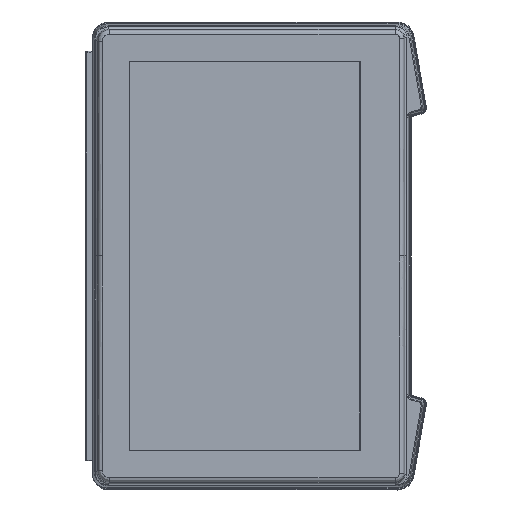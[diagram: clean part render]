
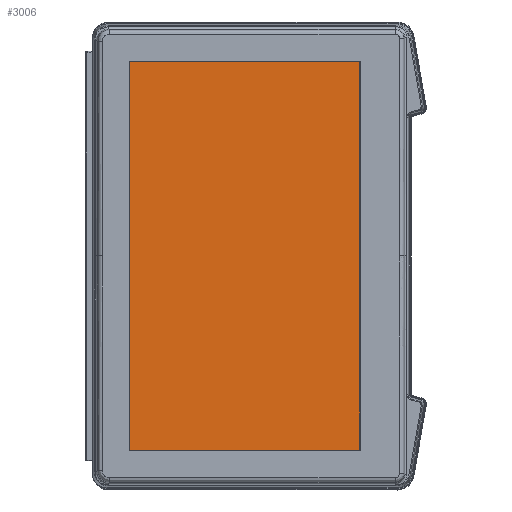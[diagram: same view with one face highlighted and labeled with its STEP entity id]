
A CAD part, top view. The second image highlights one B-rep face of the part: STEP entity #3006.
In plain terms, the highlighted planar face has unit normal (0, 0, 1).
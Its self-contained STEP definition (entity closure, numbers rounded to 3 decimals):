
#3006=ADVANCED_FACE('',(#4463),#4071,.F.);
#4071=PLANE('',#20257);
#4463=FACE_OUTER_BOUND('',#5660,.T.);
#5660=EDGE_LOOP('',(#7749,#7750,#7751,#7752));
#7749=ORIENTED_EDGE('',*,*,#15091,.T.);
#7750=ORIENTED_EDGE('',*,*,#15117,.F.);
#7751=ORIENTED_EDGE('',*,*,#15400,.F.);
#7752=ORIENTED_EDGE('',*,*,#15401,.T.);
#13212=VERTEX_POINT('',#32080);
#13213=VERTEX_POINT('',#32082);
#13231=VERTEX_POINT('',#32392);
#13423=VERTEX_POINT('',#36607);
#15091=EDGE_CURVE('',#13213,#13212,#17761,.T.);
#15117=EDGE_CURVE('',#13231,#13212,#17774,.T.);
#15400=EDGE_CURVE('',#13423,#13231,#17909,.T.);
#15401=EDGE_CURVE('',#13423,#13213,#17910,.T.);
#17761=LINE('',#32081,#18946);
#17774=LINE('',#32394,#18959);
#17909=LINE('',#36606,#19094);
#17910=LINE('',#36608,#19095);
#18946=VECTOR('',#21767,1.);
#18959=VECTOR('',#21800,1.);
#19094=VECTOR('',#22149,1.);
#19095=VECTOR('',#22150,1.);
#20257=AXIS2_PLACEMENT_3D('',#36609,#22151,#22152);
#21767=DIRECTION('',(0.,1.,0.));
#21800=DIRECTION('',(1.,0.,0.));
#22149=DIRECTION('',(0.,1.,0.));
#22150=DIRECTION('',(1.,0.,0.));
#22151=DIRECTION('',(0.,0.,-1.));
#22152=DIRECTION('',(1.,0.,0.));
#32080=CARTESIAN_POINT('',(370.059,265.281,53.498));
#32081=CARTESIAN_POINT('',(370.059,-740.058,53.498));
#32082=CARTESIAN_POINT('',(370.059,-264.907,53.498));
#32392=CARTESIAN_POINT('',(55.871,265.281,53.498));
#32394=CARTESIAN_POINT('',(41.153,265.281,53.498));
#36606=CARTESIAN_POINT('',(55.871,-740.058,53.498));
#36607=CARTESIAN_POINT('',(55.871,-264.907,53.498));
#36608=CARTESIAN_POINT('',(41.153,-264.907,53.498));
#36609=CARTESIAN_POINT('',(55.597,0.187,53.498));
